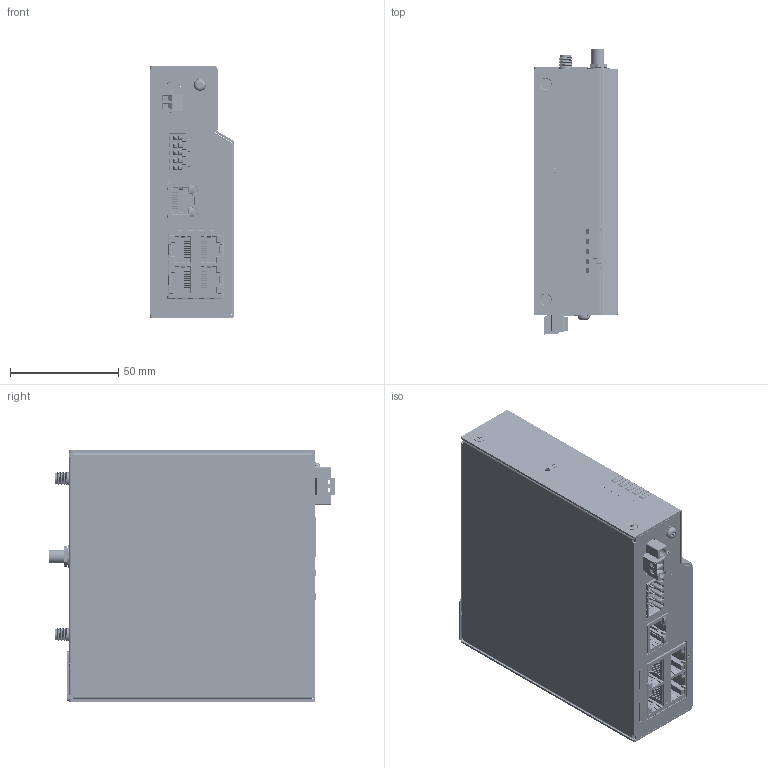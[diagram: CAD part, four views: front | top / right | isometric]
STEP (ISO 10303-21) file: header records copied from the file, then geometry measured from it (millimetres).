
FILE_DESCRIPTION (( 'STEP AP214' ), '1' );
FILE_NAME ('ICR-1645W.STEP', '2024-10-01T00:56:39', ( '' ), ( '' ), 'SwSTEP 2.0', 'SolidWorks 2022', '' );
FILE_SCHEMA (( 'AUTOMOTIVE_DESIGN' ));
Length unit declared in the file: millimetre
Products named in the file (42): 1304006098-01-1745_默认; 1960055896S000; 1931030520_默认; DEFAULT-1_1-20231227; 1652008392-01-dinkle_0156-2510-20230908-1745-20231227; PRT0003_1_1_2.stp; 1304006097-01-1745_默认; DEFAULT-3_1-20231227; SIM5-06F1-KNM1-01 -1745-20231227; 1960114865N000_PLATE FOR SIM CARD; 1654014673-01-singleRJ1401-88UEXCRX00-20231227; 193B020402_默认; 1654002618-1745-20231227_默认; 1653008935-01-1745-20231227_默认; 1990041438T000_FRAME; ICR-1645W; CZT24H-052; DEFAULT-2_1-20231227; 1652000984-20230908-1745-20231227_默认; 1600003018-01-20230908-1745-20231227_默认; PC LABEL-1745_TOP; PRT0002_1_1_2.stp; DEFAULT-4_1-20231227; PRT0004_1_1_2.stp; 1652002024_默认; PRT0005_1_1_2.stp; SMA_ipex-M_默认; 1960114863N000_plate OF lens; 1960116135T000_CHASSIS_1745_CHASSIS_ICR-1645W; 1960116134T000_COVER_1745_cover_silk; DEFAULT_1-20231227; con10304a_p01_asm-1745-20231227; 1935130610_默认; DEFAULT-5_1-20231227; 1990032849T000-LENS_WISE-7000; pcb_ICR-1745_20231218-20231227; assy_ICR-1745-20231218-20231227_assy-icr-1645; ASM0001_ASM_1_1_2_ASM.stp; con10304a_p01_asm.stp; 90_1_1_2.stp
Assembly tree (58 placements, depth 6):
  ICR-1645W
    1960116135T000_CHASSIS_1745_CHASSIS_ICR-1645W
    assy_ICR-1745-20231218-20231227_assy-icr-1645
      pcb_ICR-1745_20231218-20231227
      1652008392-01-dinkle_0156-2510-20230908-1745-20231227
      1652000984-20230908-1745-20231227_默认
      con10304a_p01_asm-1745-20231227  x2
        con10304a_p01_asm.stp
          ASM0001_ASM_1_1_2_ASM.stp
            90_1_1_2.stp
            PRT0002_1_1_2.stp
            PRT0003_1_1_2.stp
            PRT0004_1_1_2.stp
            PRT0005_1_1_2.stp
      SIM5-06F1-KNM1-01 -1745-20231227  x2
      1304006098-01-1745_默认  x2
      1304006097-01-1745_默认  x3
      1600003018-01-20230908-1745-20231227_默认
      1653008935-01-1745-20231227_默认  x3
      1654014673-01-singleRJ1401-88UEXCRX00-20231227
        DEFAULT-1_1-20231227
          DEFAULT_1-20231227
          DEFAULT-1_1-20231227
          DEFAULT-2_1-20231227
          DEFAULT-3_1-20231227
          DEFAULT_1-20231227
            DEFAULT-4_1-20231227
            DEFAULT-5_1-20231227
      CZT24H-052
      1654002618-1745-20231227_默认
      1960055896S000
    1960116134T000_COVER_1745_cover_silk
    1990032849T000-LENS_WISE-7000
    1960114865N000_PLATE FOR SIM CARD
    1935130610_默认
    1960114863N000_plate OF lens
    1931030520_默认  x6
    1990041438T000_FRAME
    1652002024_默认
    193B020402_默认  x6
    PC LABEL-1745_TOP
    SMA_ipex-M_默认
Bounding box: 39 x 131.7 x 116 mm (x, y, z)
Volume: 90324.4 mm3; surface area: 164565.3 mm2
Topology: 81 solids, 111 shells, 14831 faces, 41074 edges, 26589 vertices
Faces by surface type: plane 7819, bspline 3757, cylinder 3066, cone 128, torus 41, sphere 20
Entity records: 554239 total; most frequent: CARTESIAN_POINT 162450, ORIENTED_EDGE 71030, DIRECTION 50712, EDGE_CURVE 35548, VECTOR 23418, LINE 23418, VERTEX_POINT 23107, EDGE_LOOP 13877
